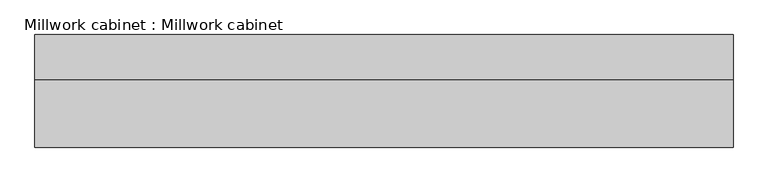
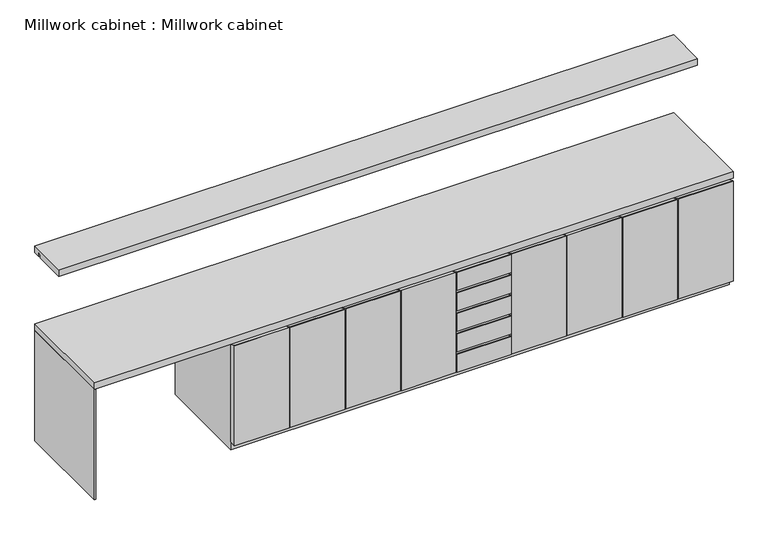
"""IFC4 building model written with IfcOpenShell, lengths in millimetres: furniture geometry, Millwork cabinet : Millwork cabinet."""

from ifc_helpers import new_model, si_unit, frame, origin, origin_with_axes, place, context, project, spatial, polyline, outline, extrude, source, transform, mapped, element, save


def millwork_cabinet_millwork_cabinet_28f851ff(model_context):
    return source(origin(), model_context, "Body", "SweptSolid", [
        extrude(outline(polyline([(-702.0, 60.0), (-750.0, 60.0), (-750.0, 198.0), (-745.0, 198.0), (-702.0, 180.5294288), (-702.0, 60.0)])), frame((2681.3669931, 0.0, 0.0), z_axis=(1.0, 0.0, 0.0), x_axis=(0.0, 1.0, 0.0)), (0.0, 0.0, 1.0), 396.6666667),
        extrude(outline(polyline([(-702.0, 218.0), (-750.0, 218.0), (-750.0, 356.0), (-745.0, 356.0), (-702.0, 338.5294288), (-702.0, 218.0)])), frame((2681.3669931, 0.0, 0.0), z_axis=(1.0, 0.0, 0.0), x_axis=(0.0, 1.0, 0.0)), (0.0, 0.0, 1.0), 396.6666667),
        extrude(outline(polyline([(-702.0, 376.0), (-750.0, 376.0), (-750.0, 514.0), (-745.0, 514.0), (-702.0, 496.5294288), (-702.0, 376.0)])), frame((2681.3669931, 0.0, 0.0), z_axis=(1.0, 0.0, 0.0), x_axis=(0.0, 1.0, 0.0)), (0.0, 0.0, 1.0), 396.6666667),
        extrude(outline(polyline([(-702.0, 534.0), (-750.0, 534.0), (-750.0, 672.0), (-745.0, 672.0), (-702.0, 654.5294288), (-702.0, 534.0)])), frame((2681.3669931, 0.0, 0.0), z_axis=(1.0, 0.0, 0.0), x_axis=(0.0, 1.0, 0.0)), (0.0, 0.0, 1.0), 396.6666667),
        extrude(outline(polyline([(-702.0, 60.0), (-750.0, 60.0), (-750.0, 830.0), (-745.0, 830.0), (-702.0, 812.5294288), (-702.0, 60.0)])), frame((1064.7003264, 0.0, 0.0), z_axis=(1.0, 0.0, 0.0), x_axis=(0.0, 1.0, 0.0)), (0.0, 0.0, 1.0), 400.0),
        extrude(outline(polyline([(-702.0, 60.0), (-750.0, 60.0), (-750.0, 830.0), (-745.0, 830.0), (-702.0, 812.5294288), (-702.0, 60.0)])), frame((1471.3669931, 0.0, 0.0), z_axis=(1.0, 0.0, 0.0), x_axis=(0.0, 1.0, 0.0)), (0.0, 0.0, 1.0), 396.6666667),
        extrude(outline(polyline([(-702.0, 60.0), (-750.0, 60.0), (-750.0, 830.0), (-745.0, 830.0), (-702.0, 812.5294288), (-702.0, 60.0)])), frame((1874.7003264, 0.0, 0.0), z_axis=(1.0, 0.0, 0.0), x_axis=(0.0, 1.0, 0.0)), (0.0, 0.0, 1.0), 396.6666667),
        extrude(outline(polyline([(-702.0, 60.0), (-750.0, 60.0), (-750.0, 830.0), (-745.0, 830.0), (-702.0, 812.5294288), (-702.0, 60.0)])), frame((2278.0336598, 0.0, 0.0), z_axis=(1.0, 0.0, 0.0), x_axis=(0.0, 1.0, 0.0)), (0.0, 0.0, 1.0), 396.6666667),
        extrude(outline(polyline([(-702.0, 692.0), (-750.0, 692.0), (-750.0, 830.0), (-745.0, 830.0), (-702.0, 812.5294288), (-702.0, 692.0)])), frame((2681.3669931, 0.0, 0.0), z_axis=(1.0, 0.0, 0.0), x_axis=(0.0, 1.0, 0.0)), (0.0, 0.0, 1.0), 396.6666667),
        extrude(outline(polyline([(-702.0, 60.0), (-750.0, 60.0), (-750.0, 830.0), (-745.0, 830.0), (-702.0, 812.5294288), (-702.0, 60.0)])), frame((3084.7003264, 0.0, 0.0), z_axis=(1.0, 0.0, 0.0), x_axis=(0.0, 1.0, 0.0)), (0.0, 0.0, 1.0), 396.6666667),
        extrude(outline(polyline([(-702.0, 60.0), (-750.0, 60.0), (-750.0, 830.0), (-745.0, 830.0), (-702.0, 812.5294288), (-702.0, 60.0)])), frame((3488.0336598, 0.0, 0.0), z_axis=(1.0, 0.0, 0.0), x_axis=(0.0, 1.0, 0.0)), (0.0, 0.0, 1.0), 396.6666667),
        extrude(outline(polyline([(-702.0, 60.0), (-750.0, 60.0), (-750.0, 830.0), (-745.0, 830.0), (-702.0, 812.5294288), (-702.0, 60.0)])), frame((3891.3669931, 0.0, 0.0), z_axis=(1.0, 0.0, 0.0), x_axis=(0.0, 1.0, 0.0)), (0.0, 0.0, 1.0), 396.6666667),
        extrude(outline(polyline([(-702.0, 60.0), (-750.0, 60.0), (-750.0, 830.0), (-745.0, 830.0), (-702.0, 812.5294288), (-702.0, 60.0)])), frame((4294.7003264, 0.0, 0.0), z_axis=(1.0, 0.0, 0.0), x_axis=(0.0, 1.0, 0.0)), (0.0, 0.0, 1.0), 400.0),
        extrude(outline(polyline([(1064.7003264, 0.0), (4694.7003264, 0.0), (4694.7003264, -700.0), (1064.7003264, -700.0), (1064.7003264, 0.0)])), origin_with_axes(), (0.0, 0.0, 1.0), 850.0),
        extrude(outline(polyline([(54.7003264, 0.0), (54.7003264, -750.0), (44.7003264, -750.0), (44.7003264, 0.0), (54.7003264, 0.0)])), origin_with_axes(), (0.0, 0.0, 1.0), 850.0),
        extrude(outline(polyline([(4694.7003264, 0.0), (4694.7003264, -750.0), (44.7003264, -750.0), (44.7003264, 0.0), (4694.7003264, 0.0)])), frame((0.0, 0.0, 850.0), z_axis=(0.0, 0.0, 1.0), x_axis=(1.0, 0.0, 0.0)), (0.0, 0.0, 1.0), 50.0),
        extrude(outline(polyline([(-300.0, 1500.0), (0.0, 1500.0), (0.0, 1450.0), (-50.0, 1450.0), (-50.0, 1475.9374797), (-70.0, 1475.9374797), (-70.0, 1450.0), (-300.0, 1450.0), (-300.0, 1500.0)])), frame((44.7003264, 0.0, 0.0), z_axis=(1.0, 0.0, 0.0), x_axis=(0.0, 1.0, 0.0)), (0.0, 0.0, 1.0), 4650.0),
    ])


if __name__ == "__main__":
    model = new_model("IFC4")
    model_context = context("Model", 3, world=origin())
    ifc_project = project(units=[si_unit("LENGTHUNIT", "METRE", prefix="MILLI")], contexts=[model_context])
    site = spatial("IfcSite", under=ifc_project)
    building = spatial("IfcBuilding", under=site)
    placement = place(None, origin())
    millwork_cabinet_millwork_cabinet_shape = millwork_cabinet_millwork_cabinet_28f851ff(model_context)
    element("IfcFurniture", 1, ObjectType="Millwork cabinet : Millwork cabinet", at=placement, inside=building, context=model_context, shape_type="MappedRepresentation", body=[
        mapped(millwork_cabinet_millwork_cabinet_shape, transform((0.0, 0.0, 0.0), x_axis=(1.0, 0.0, 0.0), y_axis=(0.0, 1.0, 0.0), z_axis=(0.0, 0.0, 1.0))),
    ])
    save(model, "model.ifc")
